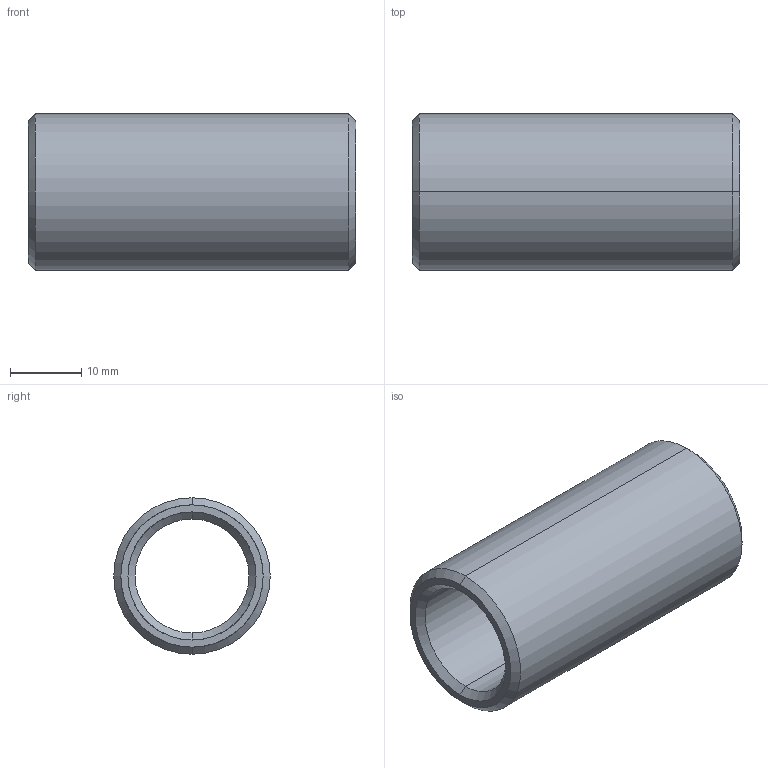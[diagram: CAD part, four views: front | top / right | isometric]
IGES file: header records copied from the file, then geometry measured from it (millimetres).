
Start section: START RECORD GO HERE.
Global section: file name: 352-16X46.igs; native system: DASSAULT SYSTEMES CATIA V5 R20 - www.3ds.com; preprocessor: CATIA Version 5 Release 20 ; author: Utente; organization: NB04-ASUS; date: 20210410.110507; units: millimetre
Bounding box: 46 x 22 x 22 mm (x, y, z)
Surface area: 5716.8 mm2 (no closed solid volume)
Topology: 0 solids, 0 shells, 14 faces, 88 edges, 88 vertices
Faces by surface type: revolution 12, plane 2
